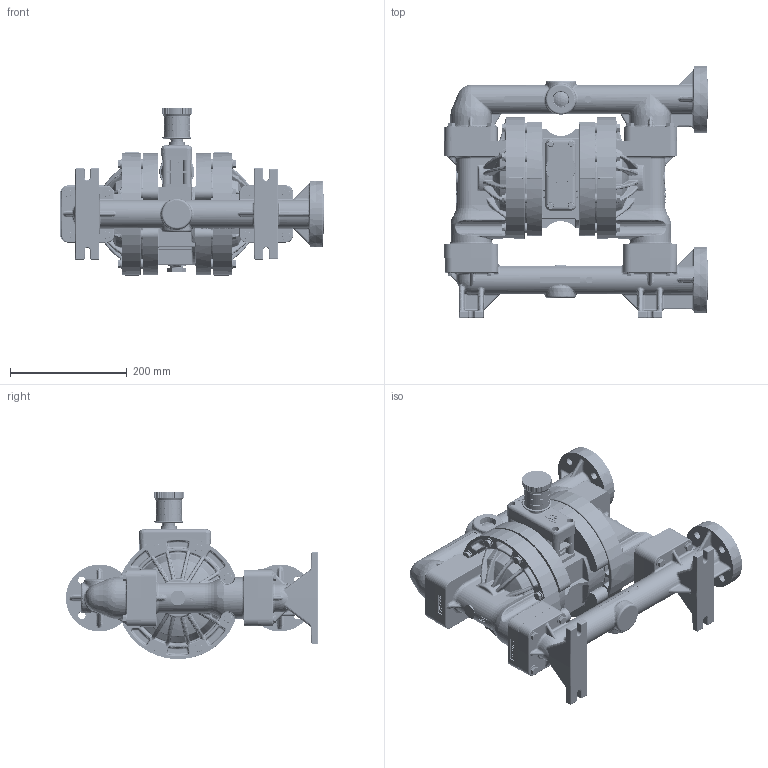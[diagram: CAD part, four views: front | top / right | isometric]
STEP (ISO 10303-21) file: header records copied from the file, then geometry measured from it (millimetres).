
FILE_DESCRIPTION (( 'STEP AP203' ), '1' );
FILE_NAME ('P200_Advanced_PVDF_DIN.STEP', '2026-07-22T06:28:24', ( '' ), ( '' ), 'SwSTEP 2.0', 'SolidWorks 2022', '' );
FILE_SCHEMA (( 'CONFIG_CONTROL_DESIGN' ));
Products named in the file (1): P200_Advanced_PVDF_DIN
Bounding box: 452.12 x 432.58 x 287.5 mm (x, y, z)
Volume: 11005593.8 mm3; surface area: 861180.1 mm2
Topology: 1 solids, 1 shells, 8105 faces, 20422 edges, 12593 vertices
Faces by surface type: plane 4056, bspline 1617, cylinder 1190, cone 530, sphere 408, torus 304
Entity records: 409586 total; most frequent: CARTESIAN_POINT 229591, ORIENTED_EDGE 40822, DIRECTION 32682, EDGE_CURVE 20411, VERTEX_POINT 12592, AXIS2_PLACEMENT_3D 11167, VECTOR 10348, LINE 10348
